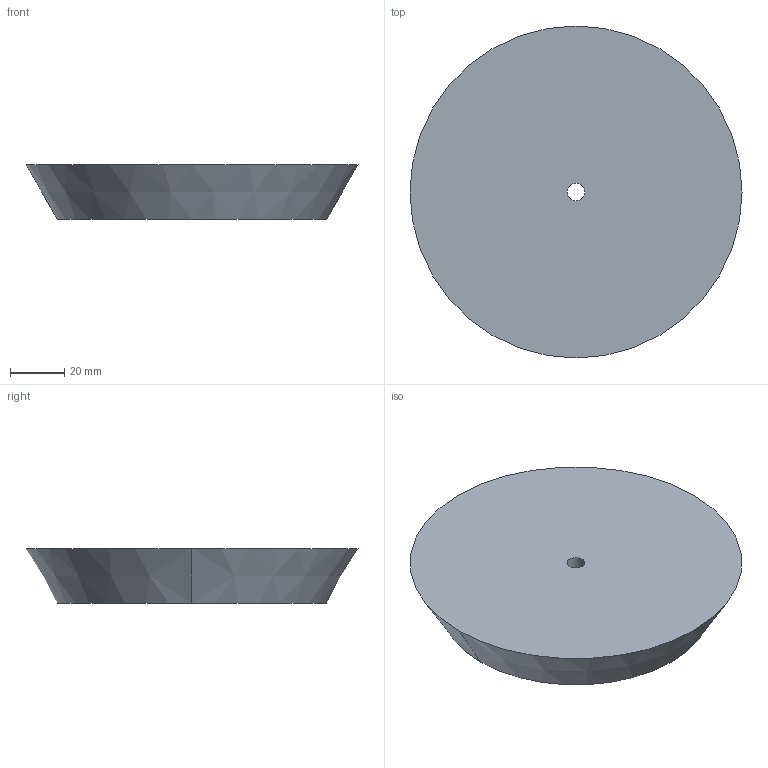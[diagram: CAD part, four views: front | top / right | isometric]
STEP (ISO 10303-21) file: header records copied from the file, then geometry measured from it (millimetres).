
FILE_DESCRIPTION(('CATIA V5 STEP Exchange'),'2;1');
FILE_NAME('C:\Users\andres.garcia\OneDrive - IQS\ASIGNATURAS\DAO\Controles\2223\c0\c1-CLOS_Rafael-tapon.stp','2023-02-03T08:22:03+00:00',('none'),('none'),'CATIA Version 5-6 Release 2013 SP6','CATIA V5 STEP AP203','none');
FILE_SCHEMA(('CONFIG_CONTROL_DESIGN'));
Length unit declared in the file: millimetre
Products named in the file (1): c1-CLOS_Rafael-tapon
Bounding box: 122 x 122 x 20 mm (x, y, z)
Volume: 191669.5 mm3; surface area: 27728.6 mm2
Topology: 1 solids, 1 shells, 6 faces, 12 edges, 8 vertices
Faces by surface type: cylinder 2, plane 2, cone 2
Entity records: 196 total; most frequent: CARTESIAN_POINT 26, ORIENTED_EDGE 24, DIRECTION 22, AXIS2_PLACEMENT_3D 14, EDGE_CURVE 12, CIRCLE 8, EDGE_LOOP 8, VERTEX_POINT 8
